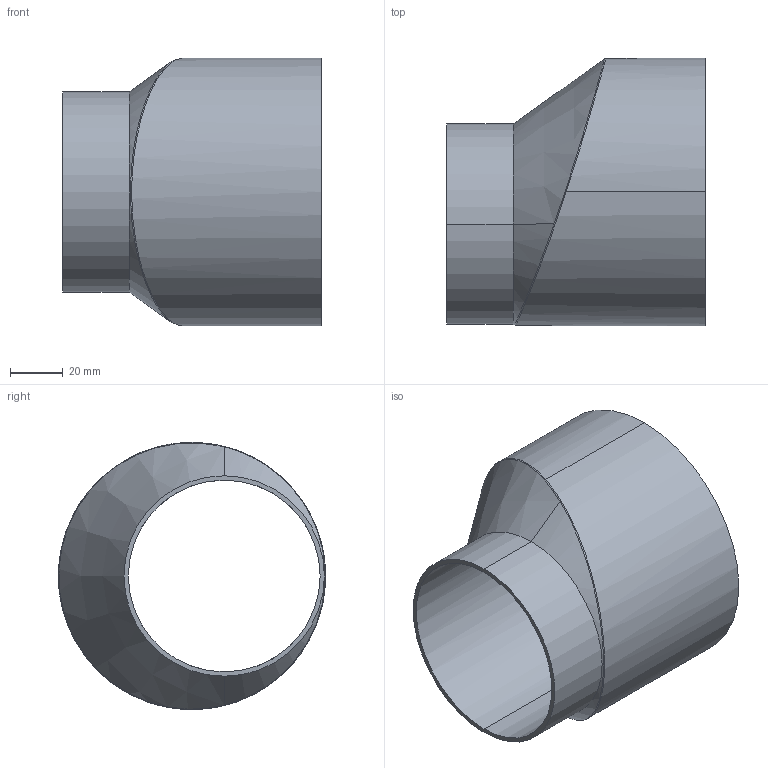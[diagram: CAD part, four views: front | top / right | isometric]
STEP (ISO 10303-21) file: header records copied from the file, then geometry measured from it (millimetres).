
FILE_DESCRIPTION (( 'STEP AP214' ), '1' );
FILE_NAME ('TE32SWW6L4.0x3.0-...STEP', '2016-06-01T08:31:49', ( 'eran' ), ( '' ), 'SwSTEP 2.0', 'SolidWorks 2016', '' );
FILE_SCHEMA (( 'AUTOMOTIVE_DESIGN' ));
Length unit declared in the file: millimetre
Products named in the file (1): TE32SWW6L4.0x3.0-..
Bounding box: 98.42 x 101.6 x 101.6 mm (x, y, z)
Volume: 168420.7 mm3; surface area: 55878.2 mm2
Topology: 1 solids, 1 shells, 20 faces, 48 edges, 28 vertices
Faces by surface type: cylinder 8, bspline 4, cone 4, torus 2, plane 2
Entity records: 1461 total; most frequent: CARTESIAN_POINT 1001, ORIENTED_EDGE 92, DIRECTION 83, EDGE_CURVE 46, AXIS2_PLACEMENT_3D 36, VERTEX_POINT 28, EDGE_LOOP 22, FACE_OUTER_BOUND 20
